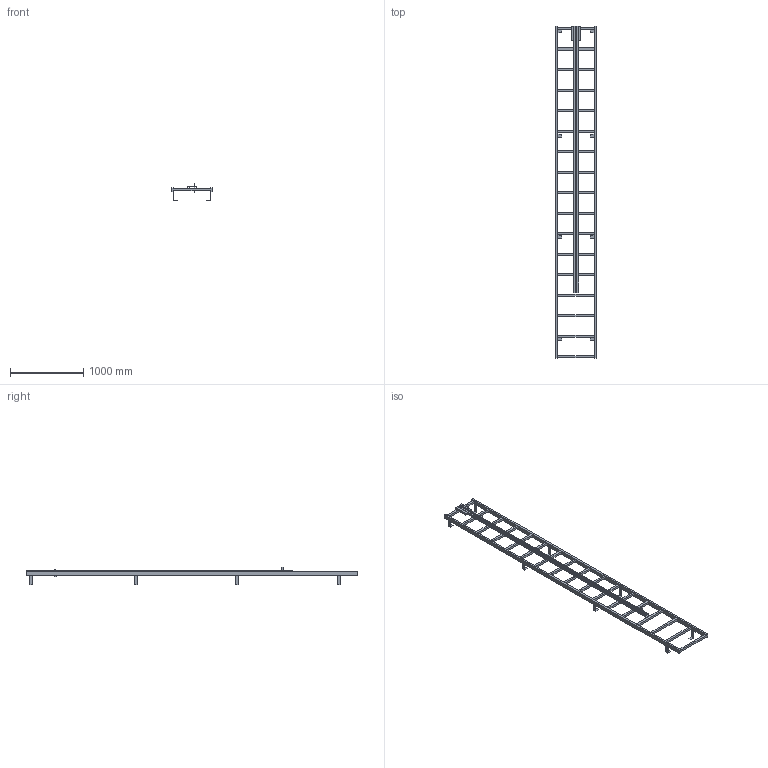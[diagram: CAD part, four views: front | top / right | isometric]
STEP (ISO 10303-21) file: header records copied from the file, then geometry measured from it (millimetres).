
FILE_DESCRIPTION((''),'2;1');
FILE_NAME('52330199','2024-12-05T09:08:02',('wep'),('HUBER SE'),'CREO PARAMETRIC BY PTC INC, 2022162','CREO PARAMETRIC BY PTC INC, 2022162','');
FILE_SCHEMA(('AUTOMOTIVE_DESIGN { 1 0 10303 214 1 1 1 1 }'));
Length unit declared in the file: millimetre
Products named in the file (1): 52330199
Bounding box: 550 x 4530 x 239 mm (x, y, z)
Volume: 21225756 mm3; surface area: 3606632.9 mm2
Topology: 2 solids, 2 shells, 296 faces, 858 edges, 562 vertices
Faces by surface type: plane 296
Entity records: 10245 total; most frequent: CARTESIAN_POINT 1718, ORIENTED_EDGE 1716, DIRECTION 1450, VECTOR 858, LINE 858, EDGE_CURVE 858, VERTEX_POINT 562, EDGE_LOOP 380
